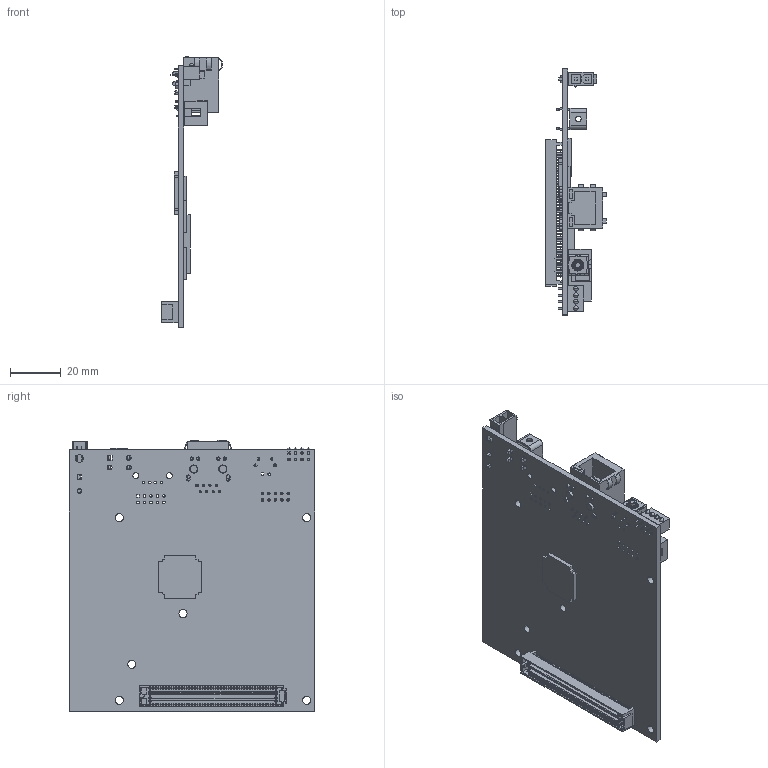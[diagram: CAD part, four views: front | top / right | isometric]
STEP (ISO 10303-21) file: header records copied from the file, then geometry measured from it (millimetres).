
FILE_DESCRIPTION((''),'2;1');
FILE_NAME('CU_CCA_SBRIO-9605','2011-11-10T',('jpfaff'),(''),'PRO/ENGINEER BY PARAMETRIC TECHNOLOGY CORPORATION, 2010230','PRO/ENGINEER BY PARAMETRIC TECHNOLOGY CORPORATION, 2010230','');
FILE_SCHEMA(('CONFIG_CONTROL_DESIGN'));
Products named in the file (1): CU_CCA_SBRIO-9605
Bounding box: 23.95 x 96.52 x 106.61 mm (x, y, z)
Volume: 30383.4 mm3; surface area: 31074.6 mm2
Topology: 3 solids, 3 shells, 4492 faces, 14635 edges, 9480 vertices
Faces by surface type: plane 3633, cylinder 818, sphere 18, torus 9, bspline 8, cone 6
Entity records: 160829 total; most frequent: CARTESIAN_POINT 29830, ORIENTED_EDGE 29226, DIRECTION 25227, EDGE_CURVE 14613, VECTOR 12827, LINE 12827, VERTEX_POINT 9481, AXIS2_PLACEMENT_3D 6200
